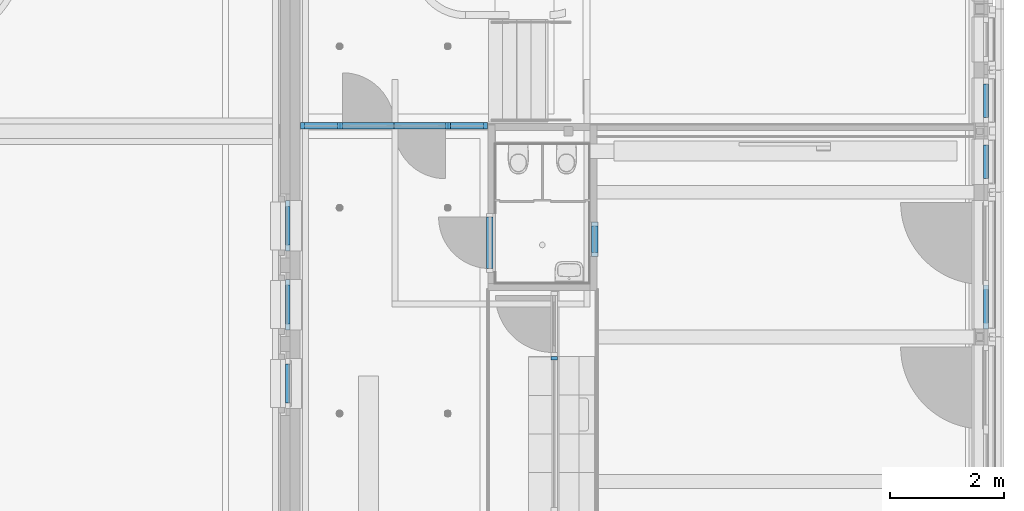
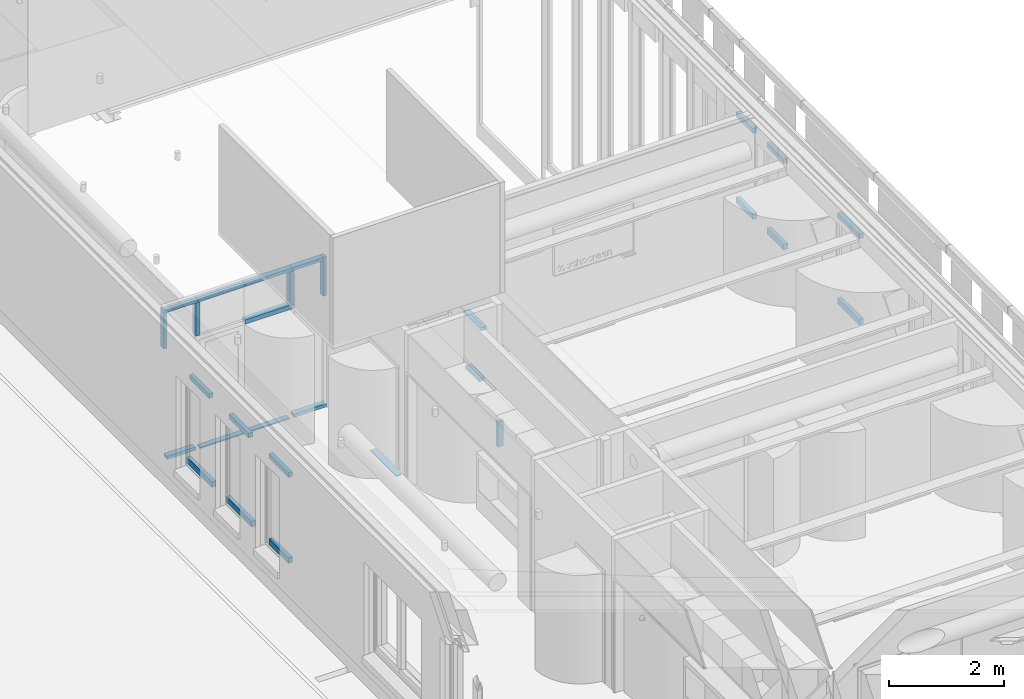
# One storey, part 26 of 128: 29 members, 10 elements without a shape of their own.
"""IFC2X3 building model written with IfcOpenShell, lengths in millimetres."""

from ifc_helpers import new_model, entity, si_unit, converted_unit, derived_unit, direction, frame, frame_2d, origin, origin_2d_with_axis, place, context, subcontext, project, spatial, rectangle, extrude, source, transform, mapped, material, type_object, type_shapes, element, aggregate, save


model = new_model("IFC2X3")

# Units and contexts
model_context = context("Model", 3, precision=0.01, world=origin(), true_north=direction((6.123031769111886e-17, 1.0)))
body_context = subcontext(model_context, "Body", "Model", "MODEL_VIEW")
ifc_project = project(units=[si_unit("LENGTHUNIT", "METRE", prefix="MILLI"), si_unit("AREAUNIT", "SQUARE_METRE"), si_unit("VOLUMEUNIT", "CUBIC_METRE"), converted_unit("PLANEANGLEUNIT", "DEGREE", entity("IfcRatioMeasure", 0.017453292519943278), si_unit("PLANEANGLEUNIT", "RADIAN"), dimensions=[0, 0, 0, 0, 0, 0, 0]), si_unit("MASSUNIT", "GRAM", prefix="KILO"), derived_unit("MASSDENSITYUNIT", [(si_unit("MASSUNIT", "GRAM", prefix="KILO"), 1), (si_unit("LENGTHUNIT", "METRE"), -3)]), derived_unit("IONCONCENTRATIONUNIT", [(si_unit("MASSUNIT", "GRAM", prefix="KILO"), 1), (si_unit("LENGTHUNIT", "METRE"), -3)]), derived_unit("MOMENTOFINERTIAUNIT", [(si_unit("LENGTHUNIT", "METRE"), 4)]), si_unit("TIMEUNIT", "SECOND"), si_unit("FREQUENCYUNIT", "HERTZ"), si_unit("THERMODYNAMICTEMPERATUREUNIT", "DEGREE_CELSIUS"), derived_unit("THERMALTRANSMITTANCEUNIT", [(si_unit("MASSUNIT", "GRAM", prefix="KILO"), 1), (si_unit("THERMODYNAMICTEMPERATUREUNIT", "KELVIN"), -1), (si_unit("TIMEUNIT", "SECOND"), -3)]), derived_unit("THERMALCONDUCTANCEUNIT", [(si_unit("MASSUNIT", "GRAM", prefix="KILO"), 1), (si_unit("THERMODYNAMICTEMPERATUREUNIT", "KELVIN"), -1), (si_unit("TIMEUNIT", "SECOND"), -3), (si_unit("LENGTHUNIT", "METRE"), 1)]), derived_unit("VOLUMETRICFLOWRATEUNIT", [(si_unit("LENGTHUNIT", "METRE"), 3), (si_unit("TIMEUNIT", "SECOND"), -1)]), derived_unit("MASSFLOWRATEUNIT", [(si_unit("MASSUNIT", "GRAM", prefix="KILO"), 1), (si_unit("TIMEUNIT", "SECOND"), -1)]), derived_unit("ROTATIONALFREQUENCYUNIT", [(si_unit("TIMEUNIT", "SECOND"), -1)]), si_unit("ELECTRICCURRENTUNIT", "AMPERE"), si_unit("ELECTRICVOLTAGEUNIT", "VOLT"), si_unit("POWERUNIT", "WATT"), si_unit("FORCEUNIT", "NEWTON", prefix="KILO"), si_unit("ILLUMINANCEUNIT", "LUX"), si_unit("LUMINOUSFLUXUNIT", "LUMEN"), si_unit("LUMINOUSINTENSITYUNIT", "CANDELA"), derived_unit("USERDEFINED", [(si_unit("MASSUNIT", "GRAM", prefix="KILO"), -1), (si_unit("LENGTHUNIT", "METRE"), -2), (si_unit("TIMEUNIT", "SECOND"), 3), (si_unit("LUMINOUSFLUXUNIT", "LUMEN"), 1)]), derived_unit("USERDEFINED", [(si_unit("MASSUNIT", "GRAM", prefix="KILO"), 1), (si_unit("TIMEUNIT", "SECOND"), -3), (si_unit("LENGTHUNIT", "METRE"), 3), (si_unit("ELECTRICCURRENTUNIT", "AMPERE"), -2)]), derived_unit("SOUNDPOWERUNIT", [(si_unit("MASSUNIT", "GRAM", prefix="KILO"), 1), (si_unit("TIMEUNIT", "SECOND"), -3), (si_unit("LENGTHUNIT", "METRE"), 2)]), derived_unit("SOUNDPRESSUREUNIT", [(si_unit("MASSUNIT", "GRAM", prefix="KILO"), 1), (si_unit("LENGTHUNIT", "METRE"), -1), (si_unit("TIMEUNIT", "SECOND"), -2)]), derived_unit("LINEARVELOCITYUNIT", [(si_unit("LENGTHUNIT", "METRE"), 1), (si_unit("TIMEUNIT", "SECOND"), -1)]), si_unit("PRESSUREUNIT", "PASCAL"), derived_unit("USERDEFINED", [(si_unit("MASSUNIT", "GRAM", prefix="KILO"), 1), (si_unit("LENGTHUNIT", "METRE"), -2), (si_unit("TIMEUNIT", "SECOND"), -2)]), derived_unit("LINEARFORCEUNIT", [(si_unit("MASSUNIT", "GRAM", prefix="KILO"), 1), (si_unit("TIMEUNIT", "SECOND"), -2)]), derived_unit("PLANARFORCEUNIT", [(si_unit("MASSUNIT", "GRAM", prefix="KILO"), 1), (si_unit("LENGTHUNIT", "METRE"), -1), (si_unit("TIMEUNIT", "SECOND"), -2)]), derived_unit("SPECIFICHEATCAPACITYUNIT", [(si_unit("THERMODYNAMICTEMPERATUREUNIT", "KELVIN"), -1), (si_unit("LENGTHUNIT", "METRE"), 2), (si_unit("TIMEUNIT", "SECOND"), -2)]), derived_unit("HEATINGVALUEUNIT", [(si_unit("LENGTHUNIT", "METRE"), 2), (si_unit("TIMEUNIT", "SECOND"), -2)]), derived_unit("VAPORPERMEABILITYUNIT", [(si_unit("LENGTHUNIT", "METRE"), -1), (si_unit("TIMEUNIT", "SECOND"), 1)]), derived_unit("DYNAMICVISCOSITYUNIT", [(si_unit("MASSUNIT", "GRAM", prefix="KILO"), 1), (si_unit("TIMEUNIT", "SECOND"), -1), (si_unit("LENGTHUNIT", "METRE"), -1)]), derived_unit("THERMALEXPANSIONCOEFFICIENTUNIT", [(si_unit("THERMODYNAMICTEMPERATUREUNIT", "KELVIN"), -1)]), derived_unit("MODULUSOFELASTICITYUNIT", [(si_unit("MASSUNIT", "GRAM", prefix="KILO"), 1), (si_unit("LENGTHUNIT", "METRE"), -1), (si_unit("TIMEUNIT", "SECOND"), -2)]), derived_unit("ISOTHERMALMOISTURECAPACITYUNIT", [(si_unit("LENGTHUNIT", "METRE"), 3), (si_unit("MASSUNIT", "GRAM", prefix="KILO"), -1)]), derived_unit("MOISTUREDIFFUSIVITYUNIT", [(si_unit("TIMEUNIT", "SECOND"), -1), (si_unit("LENGTHUNIT", "METRE"), 2)])], contexts=[model_context])

# Site, building, storey
site_placement = place(None, frame((0.0, 300.0, 0.0)))
site = spatial("IfcSite", under=ifc_project, at=site_placement, Name="<Kadastrale nummers>", CompositionType="ELEMENT")
building_placement = place(site_placement, origin())
building = spatial("IfcBuilding", under=site, at=building_placement, CompositionType="ELEMENT")
storey_placement = place(building_placement, frame((0.0, 0.0, 3560.0000331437)))
storey = spatial("IfcBuildingStorey", under=building, at=storey_placement, Name="01 eerste verdieping", CompositionType="ELEMENT", Elevation=3560.0000331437)

# Curtain wall, member
curtain_wall_type_1 = type_object("IfcCurtainWallType", Name="Curtain Wall:Merk H01", PredefinedType="NOTDEFINED")
curtain_wall_1_placement = place(storey_placement, frame((0.0, 0.0, -3560.0000331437)))
curtain_wall_1 = element("IfcCurtainWall", 1, at=curtain_wall_1_placement, inside=storey, type_object=curtain_wall_type_1, Name="Curtain Wall:Merk H01", ObjectType="Curtain Wall:Merk H01")
ifc_material_1 = material(Name="ISR_Kunststof_grijs")
member_type_1 = type_object("IfcMemberType", Name="Rectangular Mullion:31_CWM_020x114", PredefinedType="MULLION", material=ifc_material_1)
shared_shape_1 = source(origin(), body_context, "Body", "SweptSolid", [
    extrude(rectangle(XDim=113.99999999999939, YDim=20.0, at=origin_2d_with_axis()), frame((-10.0, -57.0, -900.0), z_axis=(0.0, 0.0, 1.0), x_axis=(0.0, -1.0, 0.0)), (0.0, 0.0, 1.0), 899.999999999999),
])
type_shapes(member_type_1, [shared_shape_1])
member_1_placement = place(curtain_wall_1_placement, frame((40084.0, 28495.997246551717, 3650.00003501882), z_axis=(0.0, -1.0, 0.0), x_axis=(0.0, 0.0, -1.0)))
member_1 = element("IfcMember", 2, at=member_1_placement, type_object=member_type_1, material=ifc_material_1, Name="Rectangular Mullion:31_CWM_020x114", ObjectType="Rectangular Mullion:31_CWM_020x114", context=body_context, shape_type="MappedRepresentation", body=[
    mapped(shared_shape_1, transform((0.0, 0.0, 0.0), scale=1.0)),
])
aggregate(curtain_wall_1, [member_1])

curtain_wall_type_2 = type_object("IfcCurtainWallType", Name="Curtain Wall:Merk H08", PredefinedType="NOTDEFINED")
curtain_wall_2_placement = place(storey_placement, frame((0.0, 0.0, -3560.0000331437)))
curtain_wall_2 = element("IfcCurtainWall", 3, at=curtain_wall_2_placement, inside=storey, type_object=curtain_wall_type_2, Name="Curtain Wall:Merk H08", ObjectType="Curtain Wall:Merk H08")
ifc_material_2 = material(Name="ISR_HPL")
member_type_2 = type_object("IfcMemberType", Name="Rectangular Mullion:31_CWM_067x114", PredefinedType="MULLION", material=ifc_material_2)
shared_shape_2 = source(origin(), body_context, "Body", "SweptSolid", [
    extrude(rectangle(XDim=113.99999999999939, YDim=67.0, at=origin_2d_with_axis()), frame((-33.5, -57.0, -533.0), z_axis=(0.0, 0.0, 1.0), x_axis=(0.0, -1.0, 0.0)), (0.0, 0.0, 1.0), 533.0000000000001),
])
type_shapes(member_type_2, [shared_shape_2])
member_2_placement = place(curtain_wall_2_placement, frame((41209.0, 26960.998623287, 4850.0000331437), z_axis=(0.0, 0.0, -1.0), x_axis=(0.0, 1.0, 0.0)))
member_2 = element("IfcMember", 4, at=member_2_placement, type_object=member_type_2, material=ifc_material_2, Name="Rectangular Mullion:31_CWM_067x114", ObjectType="Rectangular Mullion:31_CWM_067x114", context=body_context, shape_type="MappedRepresentation", body=[
    mapped(shared_shape_2, transform((0.0, 0.0, 0.0), scale=1.0)),
])
aggregate(curtain_wall_2, [member_2])

# Curtain wall, members
curtain_wall_type_3 = type_object("IfcCurtainWallType", Name="Curtain Wall:Merk H05", PredefinedType="NOTDEFINED")
curtain_wall_3_placement = place(storey_placement, frame((0.0, 0.0, -3560.0000331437)))
curtain_wall_3 = element("IfcCurtainWall", 5, at=curtain_wall_3_placement, inside=storey, type_object=curtain_wall_type_3, Name="Curtain Wall:Merk H05", ObjectType="Curtain Wall:Merk H05")
member_type_3 = type_object("IfcMemberType", Name="Rectangular Mullion:31_CWM_067x114", PredefinedType="MULLION", material=ifc_material_2)
shared_shape_3 = source(origin(), body_context, "Body", "SweptSolid", [
    extrude(rectangle(XDim=113.99999999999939, YDim=67.0, at=origin_2d_with_axis()), frame((-33.5, 57.0, -600.0), z_axis=(0.0, 0.0, 1.0), x_axis=(0.0, -1.0, 0.0)), (0.0, 0.0, 1.0), 600.0000000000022),
])
type_shapes(member_type_3, [shared_shape_3])
member_3_placement = place(curtain_wall_3_placement, frame((41801.0, 29309.998623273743, 6040.0000331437), z_axis=(0.0, 1.0, 0.0), x_axis=(0.0, 0.0, 1.0)))
member_3 = element("IfcMember", 6, at=member_3_placement, type_object=member_type_3, material=ifc_material_2, Name="Rectangular Mullion:31_CWM_067x114", ObjectType="Rectangular Mullion:31_CWM_067x114", context=body_context, shape_type="MappedRepresentation", body=[
    mapped(shared_shape_3, transform((0.0, 0.0, 0.0), scale=1.0)),
])
member_type_4 = type_object("IfcMemberType", Name="Rectangular Mullion:31_CWM_067x114", PredefinedType="MULLION", material=ifc_material_2)
shared_shape_4 = source(origin(), body_context, "Body", "SweptSolid", [
    extrude(rectangle(XDim=113.99999999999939, YDim=67.0, at=origin_2d_with_axis()), frame((-33.5, 57.0, -466.0), z_axis=(0.0, 0.0, 1.0), x_axis=(0.0, -1.0, 0.0)), (0.0, 0.0, 1.0), 466.00000000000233),
])
type_shapes(member_type_4, [shared_shape_4])
member_4_placement = place(curtain_wall_3_placement, frame((41801.0, 28776.998623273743, 4850.0000331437), z_axis=(0.0, -1.0, 0.0), x_axis=(0.0, 0.0, -1.0)))
member_4 = element("IfcMember", 7, at=member_4_placement, type_object=member_type_4, material=ifc_material_2, Name="Rectangular Mullion:31_CWM_067x114", ObjectType="Rectangular Mullion:31_CWM_067x114", context=body_context, shape_type="MappedRepresentation", body=[
    mapped(shared_shape_4, transform((0.0, 0.0, 0.0), scale=1.0)),
])
aggregate(curtain_wall_3, [member_3, member_4])

curtain_wall_type_4 = type_object("IfcCurtainWallType", Name="Curtain Wall:Merk H12", PredefinedType="NOTDEFINED")
curtain_wall_4_placement = place(storey_placement, frame((0.0, 0.0, -3560.0000331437)))
curtain_wall_4 = element("IfcCurtainWall", 8, at=curtain_wall_4_placement, inside=storey, type_object=curtain_wall_type_4, Name="Curtain Wall:Merk H12", ObjectType="Curtain Wall:Merk H12")
member_type_5 = type_object("IfcMemberType", Name="Rectangular Mullion:31_CWM_067x114", PredefinedType="MULLION", material=ifc_material_2)
shared_shape_5 = source(origin(), body_context, "Body", "SweptSolid", [
    extrude(rectangle(XDim=113.9999999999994, YDim=67.0, at=frame_2d((1.0658141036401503e-14, 0.0), x_axis=(1.0, 0.0))), frame((-33.5, -57.0, -626.7499999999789), z_axis=(0.0, 0.0, 1.0), x_axis=(0.0, -1.0, 0.0)), (0.0, 0.0, 1.0), 626.7499999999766),
])
type_shapes(member_type_5, [shared_shape_5])
member_5_placement = place(curtain_wall_4_placement, frame((39918.0, 30936.0, 6840.0000331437), z_axis=(1.0, 0.0, 0.0), x_axis=(0.0, 0.0, 1.0)))
member_5 = element("IfcMember", 9, at=member_5_placement, type_object=member_type_5, material=ifc_material_2, Name="Rectangular Mullion:31_CWM_067x114", ObjectType="Rectangular Mullion:31_CWM_067x114", context=body_context, shape_type="MappedRepresentation", body=[
    mapped(shared_shape_5, transform((0.0, 0.0, 0.0), scale=1.0)),
])
member_type_6 = type_object("IfcMemberType", Name="Rectangular Mullion:31_CWM_067x114", PredefinedType="MULLION", material=ifc_material_2)
shared_shape_6 = source(origin(), body_context, "Body", "SweptSolid", [
    extrude(rectangle(XDim=113.9999999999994, YDim=67.0, at=frame_2d((1.0658141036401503e-14, 0.0), x_axis=(1.0, 0.0))), frame((-33.5, -57.0, -574.2500000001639), z_axis=(0.0, 0.0, 1.0), x_axis=(0.0, -1.0, 0.0)), (0.0, 0.0, 1.0), 574.2500000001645),
])
type_shapes(member_type_6, [shared_shape_6])
member_6_placement = place(curtain_wall_4_placement, frame((36782.0, 30936.0, 3650.0000350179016), z_axis=(-1.0, 0.0, 0.0), x_axis=(0.0, 0.0, -1.0)))
member_6 = element("IfcMember", 10, at=member_6_placement, type_object=member_type_6, material=ifc_material_2, Name="Rectangular Mullion:31_CWM_067x114", ObjectType="Rectangular Mullion:31_CWM_067x114", context=body_context, shape_type="MappedRepresentation", body=[
    mapped(shared_shape_6, transform((0.0, 0.0, 0.0), scale=1.0)),
])
member_type_7 = type_object("IfcMemberType", Name="Rectangular Mullion:31_CWM_067x114", PredefinedType="MULLION", material=ifc_material_2)
shared_shape_7 = source(origin(), body_context, "Body", "SweptSolid", [
    extrude(rectangle(XDim=113.99999999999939, YDim=67.0, at=origin_2d_with_axis()), frame((-33.5, -57.0, -755.0), z_axis=(0.0, 0.0, 1.0), x_axis=(0.0, -1.0, 0.0)), (0.0, 0.0, 1.0), 754.99999999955),
])
type_shapes(member_type_7, [shared_shape_7])
member_7_placement = place(curtain_wall_4_placement, frame((36715.0, 30936.0, 6773.0000331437), z_axis=(0.0, 0.0, 1.0), x_axis=(-1.0, 0.0, 0.0)))
member_7 = element("IfcMember", 11, at=member_7_placement, type_object=member_type_7, material=ifc_material_2, Name="Rectangular Mullion:31_CWM_067x114", ObjectType="Rectangular Mullion:31_CWM_067x114", context=body_context, shape_type="MappedRepresentation", body=[
    mapped(shared_shape_7, transform((0.0, 0.0, 0.0), scale=1.0)),
])
member_type_8 = type_object("IfcMemberType", Name="Rectangular Mullion:31_CWM_067x114", PredefinedType="MULLION", material=ifc_material_2)
shared_shape_8 = source(origin(), body_context, "Body", "SweptSolid", [
    extrude(rectangle(XDim=113.9999999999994, YDim=67.0, at=frame_2d((1.0658141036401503e-14, 0.0), x_axis=(1.0, 0.0))), frame((-33.5, -57.0, -948.749999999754), z_axis=(0.0, 0.0, 1.0), x_axis=(0.0, -1.0, 0.0)), (0.0, 0.0, 1.0), 948.749999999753),
])
type_shapes(member_type_8, [shared_shape_8])
member_8_placement = place(curtain_wall_4_placement, frame((38350.0, 30936.0, 6840.0000331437), z_axis=(1.0, 0.0, 0.0), x_axis=(0.0, 0.0, 1.0)))
member_8 = element("IfcMember", 12, at=member_8_placement, type_object=member_type_8, material=ifc_material_2, Name="Rectangular Mullion:31_CWM_067x114", ObjectType="Rectangular Mullion:31_CWM_067x114", context=body_context, shape_type="MappedRepresentation", body=[
    mapped(shared_shape_8, transform((0.0, 0.0, 0.0), scale=1.0)),
])
member_type_9 = type_object("IfcMemberType", Name="Rectangular Mullion:31_CWM_020x114", PredefinedType="MULLION", material=ifc_material_1)
shared_shape_9 = source(origin(), body_context, "Body", "SweptSolid", [
    extrude(rectangle(XDim=113.99999999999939, YDim=20.0, at=origin_2d_with_axis()), frame((-10.0, -57.0, -896.2500000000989), z_axis=(0.0, 0.0, 1.0), x_axis=(0.0, -1.0, 0.0)), (0.0, 0.0, 1.0), 896.2500000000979),
])
type_shapes(member_type_9, [shared_shape_9])
member_9_placement = place(curtain_wall_4_placement, frame((38350.0, 30936.0, 3650.0000350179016), z_axis=(-1.0, 0.0, 0.0), x_axis=(0.0, 0.0, -1.0)))
member_9 = element("IfcMember", 13, at=member_9_placement, type_object=member_type_9, material=ifc_material_1, Name="Rectangular Mullion:31_CWM_020x114", ObjectType="Rectangular Mullion:31_CWM_020x114", context=body_context, shape_type="MappedRepresentation", body=[
    mapped(shared_shape_9, transform((0.0, 0.0, 0.0), scale=1.0)),
])
member_type_10 = type_object("IfcMemberType", Name="Rectangular Mullion:31_CWM_067x114", PredefinedType="MULLION", material=ifc_material_2)
shared_shape_10 = source(origin(), body_context, "Body", "SweptSolid", [
    extrude(rectangle(XDim=113.9999999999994, YDim=67.0, at=frame_2d((1.0658141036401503e-14, 0.0), x_axis=(1.0, 0.0))), frame((-33.5, -57.0, -686.2500000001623), z_axis=(0.0, 0.0, 1.0), x_axis=(0.0, -1.0, 0.0)), (0.0, 0.0, 1.0), 686.2500000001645),
])
type_shapes(member_type_10, [shared_shape_10])
member_10_placement = place(curtain_wall_4_placement, frame((37401.25000000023, 30936.0, 6840.0000331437), z_axis=(1.0, 0.0, 0.0), x_axis=(0.0, 0.0, 1.0)))
member_10 = element("IfcMember", 14, at=member_10_placement, type_object=member_type_10, material=ifc_material_2, Name="Rectangular Mullion:31_CWM_067x114", ObjectType="Rectangular Mullion:31_CWM_067x114", context=body_context, shape_type="MappedRepresentation", body=[
    mapped(shared_shape_10, transform((0.0, 0.0, 0.0), scale=1.0)),
])
member_type_11 = type_object("IfcMemberType", Name="Rectangular Mullion:31_CWM_020x114", PredefinedType="MULLION", material=ifc_material_1)
shared_shape_11 = source(origin(), body_context, "Body", "SweptSolid", [
    extrude(rectangle(XDim=113.99999999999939, YDim=20.0, at=origin_2d_with_axis()), frame((-10.0, -57.0, -903.749999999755), z_axis=(0.0, 0.0, 1.0), x_axis=(0.0, -1.0, 0.0)), (0.0, 0.0, 1.0), 903.749999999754),
])
type_shapes(member_type_11, [shared_shape_11])
member_11_placement = place(curtain_wall_4_placement, frame((37446.250000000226, 30936.0, 3650.0000350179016), z_axis=(-1.0, 0.0, 0.0), x_axis=(0.0, 0.0, -1.0)))
member_11 = element("IfcMember", 15, at=member_11_placement, type_object=member_type_11, material=ifc_material_1, Name="Rectangular Mullion:31_CWM_020x114", ObjectType="Rectangular Mullion:31_CWM_020x114", context=body_context, shape_type="MappedRepresentation", body=[
    mapped(shared_shape_11, transform((0.0, 0.0, 0.0), scale=1.0)),
])
member_type_12 = type_object("IfcMemberType", Name="Rectangular Mullion:31_CWM_067x114", PredefinedType="MULLION", material=ifc_material_2)
shared_shape_12 = source(origin(), body_context, "Body", "SweptSolid", [
    extrude(rectangle(XDim=113.9999999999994, YDim=67.0, at=frame_2d((1.0658141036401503e-14, 0.0), x_axis=(1.0, 0.0))), frame((-33.5, -57.0, -941.2500000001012), z_axis=(0.0, 0.0, 1.0), x_axis=(0.0, -1.0, 0.0)), (0.0, 0.0, 1.0), 941.2500000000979),
])
type_shapes(member_type_12, [shared_shape_12])
member_12_placement = place(curtain_wall_4_placement, frame((39291.25000000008, 30936.0, 6840.0000331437), z_axis=(1.0, 0.0, 0.0), x_axis=(0.0, 0.0, 1.0)))
member_12 = element("IfcMember", 16, at=member_12_placement, type_object=member_type_12, material=ifc_material_2, Name="Rectangular Mullion:31_CWM_067x114", ObjectType="Rectangular Mullion:31_CWM_067x114", context=body_context, shape_type="MappedRepresentation", body=[
    mapped(shared_shape_12, transform((0.0, 0.0, 0.0), scale=1.0)),
])
member_type_13 = type_object("IfcMemberType", Name="Rectangular Mullion:31_CWM_067x114", PredefinedType="MULLION", material=ifc_material_2)
shared_shape_13 = source(origin(), body_context, "Body", "SweptSolid", [
    extrude(rectangle(XDim=113.9999999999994, YDim=67.0, at=frame_2d((1.0658141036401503e-14, 0.0), x_axis=(1.0, 0.0))), frame((-33.5, -57.0, -648.7499999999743), z_axis=(0.0, 0.0, 1.0), x_axis=(0.0, -1.0, 0.0)), (0.0, 0.0, 1.0), 648.7499999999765),
])
type_shapes(member_type_13, [shared_shape_13])
member_13_placement = place(curtain_wall_4_placement, frame((39336.25000000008, 30936.0, 3650.0000350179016), z_axis=(-1.0, 0.0, 0.0), x_axis=(0.0, 0.0, -1.0)))
member_13 = element("IfcMember", 17, at=member_13_placement, type_object=member_type_13, material=ifc_material_2, Name="Rectangular Mullion:31_CWM_067x114", ObjectType="Rectangular Mullion:31_CWM_067x114", context=body_context, shape_type="MappedRepresentation", body=[
    mapped(shared_shape_13, transform((0.0, 0.0, 0.0), scale=1.0)),
])
member_type_14 = type_object("IfcMemberType", Name="Rectangular Mullion:31_CWM_067x114", PredefinedType="MULLION", material=ifc_material_2)
shared_shape_14 = source(origin(), body_context, "Body", "SweptSolid", [
    extrude(rectangle(XDim=113.99999999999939, YDim=67.0, at=origin_2d_with_axis()), frame((-33.5, -57.0, -822.0), z_axis=(0.0, 0.0, 1.0), x_axis=(0.0, -1.0, 0.0)), (0.0, 0.0, 1.0), 821.99999999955),
])
type_shapes(member_type_14, [shared_shape_14])
member_14_placement = place(curtain_wall_4_placement, frame((39985.0, 30936.0, 6018.0000331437), z_axis=(0.0, 0.0, -1.0), x_axis=(1.0, 0.0, 0.0)))
member_14 = element("IfcMember", 18, at=member_14_placement, type_object=member_type_14, material=ifc_material_2, Name="Rectangular Mullion:31_CWM_067x114", ObjectType="Rectangular Mullion:31_CWM_067x114", context=body_context, shape_type="MappedRepresentation", body=[
    mapped(shared_shape_14, transform((0.0, 0.0, 0.0), scale=1.0)),
])
ifc_material_3 = material(Name="ISR_HPL Kleur hout")
member_type_15 = type_object("IfcMemberType", Name="Rectangular Mullion:31_CWM_090x114", PredefinedType="MULLION", material=ifc_material_3)
shared_shape_15 = source(origin(), body_context, "Body", "SweptSolid", [
    extrude(rectangle(XDim=113.99999999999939, YDim=90.0, at=origin_2d_with_axis()), frame((0.0, -57.0, -986.2500000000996), z_axis=(0.0, 0.0, 1.0), x_axis=(0.0, -1.0, 0.0)), (0.0, 0.0, 1.0), 986.2500000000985),
])
type_shapes(member_type_15, [shared_shape_15])
member_15_placement = place(curtain_wall_4_placement, frame((39336.25000000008, 30936.0, 6018.0000331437), z_axis=(1.0, 0.0, 0.0), x_axis=(0.0, 0.0, 1.0)))
member_15 = element("IfcMember", 19, at=member_15_placement, type_object=member_type_15, material=ifc_material_3, Name="Rectangular Mullion:31_CWM_090x114", ObjectType="Rectangular Mullion:31_CWM_090x114", context=body_context, shape_type="MappedRepresentation", body=[
    mapped(shared_shape_15, transform((0.0, 0.0, 0.0), scale=1.0)),
])
member_type_16 = type_object("IfcMemberType", Name="Rectangular Mullion:31_CWM_090x114", PredefinedType="MULLION", material=ifc_material_3)
shared_shape_16 = source(origin(), body_context, "Body", "SweptSolid", [
    extrude(rectangle(XDim=113.99999999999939, YDim=90.0, at=origin_2d_with_axis()), frame((0.0, -57.0, -710.0), z_axis=(0.0, 0.0, 1.0), x_axis=(0.0, -1.0, 0.0)), (0.0, 0.0, 1.0), 710.000000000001),
])
type_shapes(member_type_16, [shared_shape_16])
member_16_placement = place(curtain_wall_4_placement, frame((39291.25000000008, 30936.0, 6063.0000331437), z_axis=(0.0, 0.0, -1.0), x_axis=(1.0, 0.0, 0.0)))
member_16 = element("IfcMember", 20, at=member_16_placement, type_object=member_type_16, material=ifc_material_3, Name="Rectangular Mullion:31_CWM_090x114", ObjectType="Rectangular Mullion:31_CWM_090x114", context=body_context, shape_type="MappedRepresentation", body=[
    mapped(shared_shape_16, transform((0.0, 0.0, 0.0), scale=1.0)),
])
member_17_placement = place(curtain_wall_4_placement, frame((37401.25000000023, 30936.0, 6063.0000331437), z_axis=(0.0, 0.0, -1.0), x_axis=(1.0, 0.0, 0.0)))
member_17 = element("IfcMember", 21, at=member_17_placement, type_object=member_type_16, material=ifc_material_3, Name="Rectangular Mullion:31_CWM_090x114", ObjectType="Rectangular Mullion:31_CWM_090x114", context=body_context, shape_type="MappedRepresentation", body=[
    mapped(shared_shape_16, transform((0.0, 0.0, 0.0), scale=1.0)),
])
aggregate(curtain_wall_4, [member_5, member_6, member_7, member_8, member_9, member_10, member_11, member_12, member_13, member_14, member_15, member_16, member_17])

# Curtain wall, member
curtain_wall_type_5 = type_object("IfcCurtainWallType", Name="Curtain Wall:K_29", PredefinedType="NOTDEFINED")
curtain_wall_5_placement = place(storey_placement, frame((0.0, 0.0, -3560.0000331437)))
curtain_wall_5 = element("IfcCurtainWall", 22, at=curtain_wall_5_placement, inside=storey, type_object=curtain_wall_type_5, Name="Curtain Wall:K_29", ObjectType="Curtain Wall:K_29")
ifc_material_4 = material(Name="ISR_Kunststof_RAL7006")
member_type_17 = type_object("IfcMemberType", Name="Rectangular Mullion:100x83 Gealan Kubus", PredefinedType="MULLION", material=ifc_material_4)
shared_shape_17 = source(origin(), body_context, "Body", "SweptSolid", [
    extrude(rectangle(XDim=83.0, YDim=100.0, at=origin_2d_with_axis()), frame((-50.0, 41.5, -590.0), z_axis=(0.0, 0.0, 1.0), x_axis=(0.0, -1.0, 0.0)), (0.0, 0.0, 1.0), 590.0000000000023),
])
type_shapes(member_type_17, [shared_shape_17])
member_18_placement = place(curtain_wall_5_placement, frame((48668.0, 31730.0, 6390.0), z_axis=(0.0, 1.0, 0.0), x_axis=(0.0, 0.0, 1.0)))
member_18 = element("IfcMember", 23, at=member_18_placement, type_object=member_type_17, material=ifc_material_4, Name="Rectangular Mullion:100x83 Gealan Kubus", ObjectType="Rectangular Mullion:100x83 Gealan Kubus", context=body_context, shape_type="MappedRepresentation", body=[
    mapped(shared_shape_17, transform((0.0, 0.0, 0.0), scale=1.0)),
])

curtain_wall_6_placement = place(storey_placement, frame((0.0, 0.0, -3560.0000331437)))
curtain_wall_6 = element("IfcCurtainWall", 24, at=curtain_wall_6_placement, inside=storey, type_object=curtain_wall_type_5, Name="Curtain Wall:K_29", ObjectType="Curtain Wall:K_29")
member_19_placement = place(curtain_wall_6_placement, frame((48668.0, 30660.0, 6390.0), z_axis=(0.0, 1.0, 0.0), x_axis=(0.0, 0.0, 1.0)))
member_19 = element("IfcMember", 25, at=member_19_placement, type_object=member_type_17, material=ifc_material_4, Name="Rectangular Mullion:100x83 Gealan Kubus", ObjectType="Rectangular Mullion:100x83 Gealan Kubus", context=body_context, shape_type="MappedRepresentation", body=[
    mapped(shared_shape_17, transform((0.0, 0.0, 0.0), scale=1.0)),
])

# Member
member_type_18 = type_object("IfcMemberType", Name="Rectangular Mullion:120x83 Gealan Kubus", PredefinedType="MULLION", material=ifc_material_4)
shared_shape_18 = source(origin(), body_context, "Body", "SweptSolid", [
    extrude(rectangle(XDim=83.00000000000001, YDim=120.0, at=origin_2d_with_axis()), frame((-60.0, 41.50000000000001, -590.0), z_axis=(0.0, 0.0, 1.0), x_axis=(0.0, -1.0, 0.0)), (0.0, 0.0, 1.0), 590.0000000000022),
])
type_shapes(member_type_18, [shared_shape_18])
member_20_placement = place(curtain_wall_5_placement, frame((48668.0, 31140.0, 4460.000035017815), z_axis=(0.0, -1.0, 0.0), x_axis=(0.0, 0.0, -1.0)))
member_20 = element("IfcMember", 26, at=member_20_placement, type_object=member_type_18, material=ifc_material_4, Name="Rectangular Mullion:120x83 Gealan Kubus", ObjectType="Rectangular Mullion:120x83 Gealan Kubus", context=body_context, shape_type="MappedRepresentation", body=[
    mapped(shared_shape_18, transform((0.0, 0.0, 0.0), scale=1.0)),
])

aggregate(curtain_wall_5, [member_18, member_20])

member_21_placement = place(curtain_wall_6_placement, frame((48668.0, 30070.0, 4460.000035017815), z_axis=(0.0, -1.0, 0.0), x_axis=(0.0, 0.0, -1.0)))
member_21 = element("IfcMember", 27, at=member_21_placement, type_object=member_type_18, material=ifc_material_4, Name="Rectangular Mullion:120x83 Gealan Kubus", ObjectType="Rectangular Mullion:120x83 Gealan Kubus", context=body_context, shape_type="MappedRepresentation", body=[
    mapped(shared_shape_18, transform((0.0, 0.0, 0.0), scale=1.0)),
])

aggregate(curtain_wall_6, [member_19, member_21])

# Curtain wall, members
curtain_wall_type_6 = type_object("IfcCurtainWallType", Name="Curtain Wall:K_22", PredefinedType="NOTDEFINED")
curtain_wall_7_placement = place(storey_placement, frame((0.0, 0.0, -3560.0000331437)))
curtain_wall_7 = element("IfcCurtainWall", 28, at=curtain_wall_7_placement, inside=storey, type_object=curtain_wall_type_6, Name="Curtain Wall:K_22", ObjectType="Curtain Wall:K_22")
member_type_19 = type_object("IfcMemberType", Name="Rectangular Mullion:120x83 Gealan Kubus", PredefinedType="MULLION", material=ifc_material_4)
shared_shape_19 = source(origin(), body_context, "Body", "SweptSolid", [
    extrude(rectangle(XDim=83.00000000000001, YDim=120.0, at=origin_2d_with_axis()), frame((-60.0, 41.50000000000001, -767.0), z_axis=(0.0, 0.0, 1.0), x_axis=(0.0, -1.0, 0.0)), (0.0, 0.0, 1.0), 766.9999999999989),
])
type_shapes(member_type_19, [shared_shape_19])
member_22_placement = place(curtain_wall_7_placement, frame((48668.0, 27440.0, 4460.000035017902), z_axis=(0.0, -1.0, 0.0), x_axis=(0.0, 0.0, -1.0)))
member_22 = element("IfcMember", 29, at=member_22_placement, type_object=member_type_19, material=ifc_material_4, Name="Rectangular Mullion:120x83 Gealan Kubus", ObjectType="Rectangular Mullion:120x83 Gealan Kubus", context=body_context, shape_type="MappedRepresentation", body=[
    mapped(shared_shape_19, transform((0.0, 0.0, 0.0), scale=1.0)),
])
member_type_20 = type_object("IfcMemberType", Name="Rectangular Mullion:100x83 Gealan Kubus", PredefinedType="MULLION", material=ifc_material_4)
shared_shape_20 = source(origin(), body_context, "Body", "SweptSolid", [
    extrude(rectangle(XDim=83.0, YDim=100.0, at=origin_2d_with_axis()), frame((-50.0, 41.5, -767.0), z_axis=(0.0, 0.0, 1.0), x_axis=(0.0, -1.0, 0.0)), (0.0, 0.0, 1.0), 766.9999999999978),
])
type_shapes(member_type_20, [shared_shape_20])
member_23_placement = place(curtain_wall_7_placement, frame((48668.0, 28207.0, 6390.0), z_axis=(0.0, 1.0, 0.0), x_axis=(0.0, 0.0, 1.0)))
member_23 = element("IfcMember", 30, at=member_23_placement, type_object=member_type_20, material=ifc_material_4, Name="Rectangular Mullion:100x83 Gealan Kubus", ObjectType="Rectangular Mullion:100x83 Gealan Kubus", context=body_context, shape_type="MappedRepresentation", body=[
    mapped(shared_shape_20, transform((0.0, 0.0, 0.0), scale=1.0)),
])
aggregate(curtain_wall_7, [member_22, member_23])

# Curtain wall, member
curtain_wall_type_7 = type_object("IfcCurtainWallType", Name="Curtain Wall:K_28", PredefinedType="NOTDEFINED")
curtain_wall_8_placement = place(storey_placement, frame((0.0, 0.0, -3560.0000331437)))
curtain_wall_8 = element("IfcCurtainWall", 31, at=curtain_wall_8_placement, inside=storey, type_object=curtain_wall_type_7, Name="Curtain Wall:K_28", ObjectType="Curtain Wall:K_28")
member_type_21 = type_object("IfcMemberType", Name="Rectangular Mullion:100x83 Gealan Kubus", PredefinedType="MULLION", material=ifc_material_4)
shared_shape_21 = source(origin(), body_context, "Body", "SweptSolid", [
    extrude(rectangle(XDim=83.00000000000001, YDim=100.0, at=origin_2d_with_axis()), frame((-50.0, 41.50000000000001, -680.0), z_axis=(0.0, 0.0, 1.0), x_axis=(0.0, -1.0, 0.0)), (0.0, 0.0, 1.0), 679.9999999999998),
])
type_shapes(member_type_21, [shared_shape_21])
member_24_placement = place(curtain_wall_8_placement, frame((36532.0, 27525.0, 6390.00003501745), z_axis=(0.0, -1.0, 0.0), x_axis=(0.0, 0.0, 1.0)))
member_24 = element("IfcMember", 32, at=member_24_placement, type_object=member_type_21, material=ifc_material_4, Name="Rectangular Mullion:100x83 Gealan Kubus", ObjectType="Rectangular Mullion:100x83 Gealan Kubus", context=body_context, shape_type="MappedRepresentation", body=[
    mapped(shared_shape_21, transform((0.0, 0.0, 0.0), scale=1.0)),
])

curtain_wall_9_placement = place(storey_placement, frame((0.0, 0.0, -3560.0000331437)))
curtain_wall_9 = element("IfcCurtainWall", 33, at=curtain_wall_9_placement, inside=storey, type_object=curtain_wall_type_7, Name="Curtain Wall:K_28", ObjectType="Curtain Wall:K_28")
member_25_placement = place(curtain_wall_9_placement, frame((36532.0, 28905.0, 6390.00003501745), z_axis=(0.0, -1.0, 0.0), x_axis=(0.0, 0.0, 1.0)))
member_25 = element("IfcMember", 34, at=member_25_placement, type_object=member_type_21, material=ifc_material_4, Name="Rectangular Mullion:100x83 Gealan Kubus", ObjectType="Rectangular Mullion:100x83 Gealan Kubus", context=body_context, shape_type="MappedRepresentation", body=[
    mapped(shared_shape_21, transform((0.0, 0.0, 0.0), scale=1.0)),
])

curtain_wall_type_8 = type_object("IfcCurtainWallType", Name="Curtain Wall:K_31", PredefinedType="NOTDEFINED")
curtain_wall_10_placement = place(storey_placement, frame((0.0, 0.0, -3560.0000331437)))
curtain_wall_10 = element("IfcCurtainWall", 35, at=curtain_wall_10_placement, inside=storey, type_object=curtain_wall_type_8, Name="Curtain Wall:K_31", ObjectType="Curtain Wall:K_31")
member_26_placement = place(curtain_wall_10_placement, frame((36532.0, 26145.0, 6390.00003501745), z_axis=(0.0, -1.0, 0.0), x_axis=(0.0, 0.0, 1.0)))
member_26 = element("IfcMember", 36, at=member_26_placement, type_object=member_type_21, material=ifc_material_4, Name="Rectangular Mullion:100x83 Gealan Kubus", ObjectType="Rectangular Mullion:100x83 Gealan Kubus", context=body_context, shape_type="MappedRepresentation", body=[
    mapped(shared_shape_21, transform((0.0, 0.0, 0.0), scale=1.0)),
])

# Member
member_type_22 = type_object("IfcMemberType", Name="Rectangular Mullion:120x83 Gealan Kubus", PredefinedType="MULLION", material=ifc_material_4)
shared_shape_22 = source(origin(), body_context, "Body", "SweptSolid", [
    extrude(rectangle(XDim=82.99999999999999, YDim=120.0, at=origin_2d_with_axis()), frame((-60.0, 41.49999999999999, -880.0), z_axis=(0.0, 0.0, 1.0), x_axis=(0.0, -1.0, 0.0)), (0.0, 0.0, 1.0), 879.9999999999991),
])
type_shapes(member_type_22, [shared_shape_22])
member_27_placement = place(curtain_wall_8_placement, frame((36532.0, 28305.0, 4460.000035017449), z_axis=(0.0, 1.0, 0.0), x_axis=(0.0, 0.0, -1.0)))
member_27 = element("IfcMember", 37, at=member_27_placement, type_object=member_type_22, material=ifc_material_4, Name="Rectangular Mullion:120x83 Gealan Kubus", ObjectType="Rectangular Mullion:120x83 Gealan Kubus", context=body_context, shape_type="MappedRepresentation", body=[
    mapped(shared_shape_22, transform((0.0, 0.0, 0.0), scale=1.0)),
])

aggregate(curtain_wall_8, [member_24, member_27])

member_28_placement = place(curtain_wall_9_placement, frame((36532.0, 29685.0, 4460.000035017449), z_axis=(0.0, 1.0, 0.0), x_axis=(0.0, 0.0, -1.0)))
member_28 = element("IfcMember", 38, at=member_28_placement, type_object=member_type_22, material=ifc_material_4, Name="Rectangular Mullion:120x83 Gealan Kubus", ObjectType="Rectangular Mullion:120x83 Gealan Kubus", context=body_context, shape_type="MappedRepresentation", body=[
    mapped(shared_shape_22, transform((0.0, 0.0, 0.0), scale=1.0)),
])

aggregate(curtain_wall_9, [member_25, member_28])

member_type_23 = type_object("IfcMemberType", Name="Rectangular Mullion:120x83 Gealan Kubus", PredefinedType="MULLION", material=ifc_material_4)
shared_shape_23 = source(origin(), body_context, "Body", "SweptSolid", [
    extrude(rectangle(XDim=83.00000000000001, YDim=120.0, at=origin_2d_with_axis()), frame((-60.0, 41.50000000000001, -680.0), z_axis=(0.0, 0.0, 1.0), x_axis=(0.0, -1.0, 0.0)), (0.0, 0.0, 1.0), 679.9999999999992),
])
type_shapes(member_type_23, [shared_shape_23])
member_29_placement = place(curtain_wall_10_placement, frame((36532.0, 26825.0, 4460.000035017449), z_axis=(0.0, 1.0, 0.0), x_axis=(0.0, 0.0, -1.0)))
member_29 = element("IfcMember", 39, at=member_29_placement, type_object=member_type_23, material=ifc_material_4, Name="Rectangular Mullion:120x83 Gealan Kubus", ObjectType="Rectangular Mullion:120x83 Gealan Kubus", context=body_context, shape_type="MappedRepresentation", body=[
    mapped(shared_shape_23, transform((0.0, 0.0, 0.0), scale=1.0)),
])

aggregate(curtain_wall_10, [member_26, member_29])

save(model, "model.ifc")
